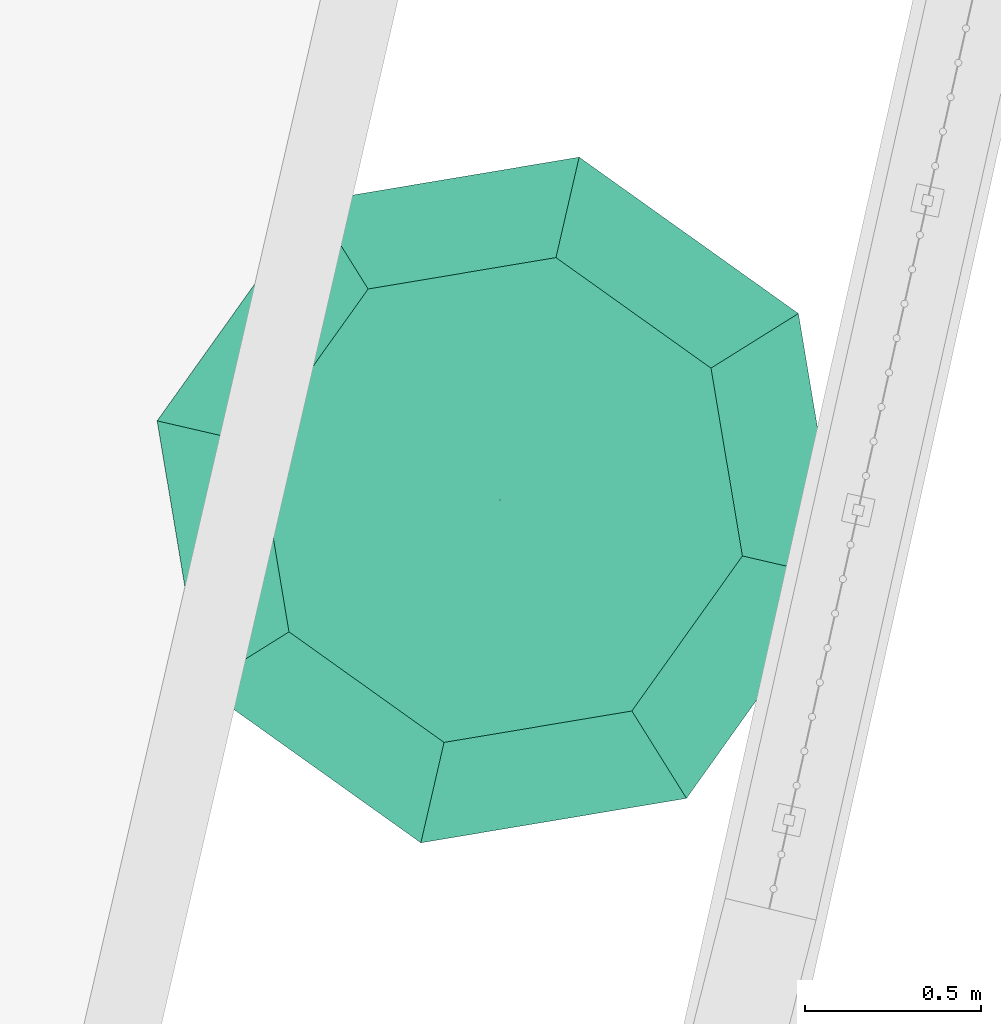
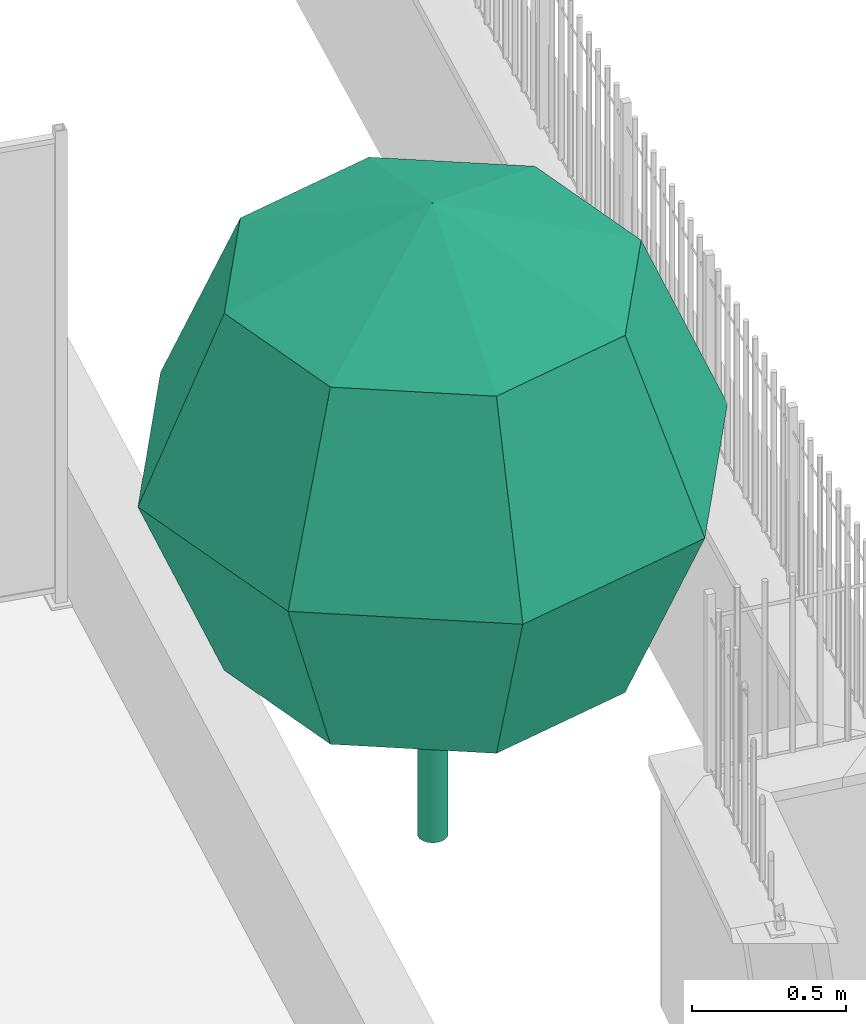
# One storey, part 103 of 119: 1 flow terminal.
"""IFC2X3 building model written with IfcOpenShell, lengths in metres."""

from ifc_helpers import new_model, entity, si_unit, converted_unit, derived_unit, money_unit, direction, frame, origin_with_axes, place, context, subcontext, project, spatial, faceted_brep, source, transform, mapped, type_object, element, save


model = new_model("IFC2X3")

# Units and contexts
model_context = context("Model", 3, precision=1e-05, world=origin_with_axes(), true_north=direction((0.0, 1.0)))
body_context = subcontext(model_context, "Body", "Model", "MODEL_VIEW")
ifc_project = project(units=[si_unit("LENGTHUNIT", "METRE"), si_unit("AREAUNIT", "SQUARE_METRE"), si_unit("VOLUMEUNIT", "CUBIC_METRE"), converted_unit("PLANEANGLEUNIT", "DEGREE", entity("IfcPlaneAngleMeasure", 0.0174532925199), si_unit("PLANEANGLEUNIT", "RADIAN"), dimensions=[0, 0, 0, 0, 0, 0, 0]), si_unit("SOLIDANGLEUNIT", "STERADIAN"), money_unit("EUR"), converted_unit("TIMEUNIT", "Year", entity("IfcTimeMeasure", 31556926.0), si_unit("TIMEUNIT", "SECOND"), dimensions=[0, 0, 1, 0, 0, 0, 0]), si_unit("MASSUNIT", "GRAM", prefix="KILO"), si_unit("THERMODYNAMICTEMPERATUREUNIT", "DEGREE_CELSIUS"), si_unit("LUMINOUSINTENSITYUNIT", "LUMEN"), si_unit("ENERGYUNIT", "JOULE", prefix="MEGA"), derived_unit("THERMALCONDUCTANCEUNIT", [(si_unit("POWERUNIT", "WATT"), 1), (si_unit("LENGTHUNIT", "METRE"), -1), (si_unit("THERMODYNAMICTEMPERATUREUNIT", "KELVIN"), -1)]), derived_unit("SPECIFICHEATCAPACITYUNIT", [(si_unit("ENERGYUNIT", "JOULE"), 1), (si_unit("MASSUNIT", "GRAM", prefix="KILO"), -1), (si_unit("THERMODYNAMICTEMPERATUREUNIT", "KELVIN"), -1)]), derived_unit("MASSDENSITYUNIT", [(si_unit("MASSUNIT", "GRAM", prefix="KILO"), 1), (si_unit("VOLUMEUNIT", "CUBIC_METRE"), -1)])], contexts=[model_context])

# Site, building, storey
site_placement = place(None, origin_with_axes())
site = spatial("IfcSite", under=ifc_project, at=site_placement, Name="Site", CompositionType="ELEMENT")
building_placement = place(site_placement, origin_with_axes())
building = spatial("IfcBuilding", under=site, at=building_placement, Name="Bâtiment", CompositionType="ELEMENT")
storey_placement = place(building_placement, origin_with_axes())
storey = spatial("IfcBuildingStorey", under=building, at=storey_placement, Name="Rez-de-chaussée", CompositionType="ELEMENT", Elevation=0.0)

# Flow terminal
air_terminal_type = type_object("IfcAirTerminalType", Name="Modèle arbre conceptuel 23", PredefinedType="NOTDEFINED")
shared_shape = source(origin_with_axes(), body_context, "Body", "Brep", [
    faceted_brep([(-0.0492403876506, -0.00868240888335, 0.0), (-0.05, 0.0, 0.0), (-0.0492403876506, 0.00868240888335, 0.0), (-0.0469846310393, 0.0171010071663, 0.0), (-0.0433012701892, 0.025, 0.0), (-0.0383022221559, 0.0321393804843, 0.0), (-0.0321393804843, 0.0383022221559, 0.0), (-0.025, 0.0433012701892, 0.0), (-0.0171010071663, 0.0469846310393, 0.0), (-0.00868240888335, 0.0492403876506, 0.0), (0.0, 0.05, 0.0), (0.00868240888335, 0.0492403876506, 0.0), (0.0171010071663, 0.0469846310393, 0.0), (0.025, 0.0433012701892, 0.0), (0.0321393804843, 0.0383022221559, 0.0), (0.0383022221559, 0.0321393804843, 0.0), (0.0433012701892, 0.025, 0.0), (0.0469846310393, 0.0171010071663, 0.0), (0.0492403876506, 0.00868240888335, 0.0), (0.05, 0.0, 0.0), (0.0492403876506, -0.00868240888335, 0.0), (0.0469846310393, -0.0171010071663, 0.0), (0.0433012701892, -0.025, 0.0), (0.0383022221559, -0.0321393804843, 0.0), (0.0321393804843, -0.0383022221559, 0.0), (0.025, -0.0433012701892, 0.0), (0.0171010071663, -0.0469846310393, 0.0), (0.00868240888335, -0.0492403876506, 0.0), (0.0, -0.05, 0.0), (-0.00868240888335, -0.0492403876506, 0.0), (-0.0171010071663, -0.0469846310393, 0.0), (-0.025, -0.0433012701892, 0.0), (-0.0321393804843, -0.0383022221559, 0.0), (-0.0383022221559, -0.0321393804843, 0.0), (-0.0433012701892, -0.025, 0.0), (-0.0469846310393, -0.0171010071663, 0.0), (-0.0492403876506, -0.00868240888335, 0.5), (-0.05, 0.0, 0.5), (-0.0492403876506, 0.00868240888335, 0.5), (-0.0469846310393, 0.0171010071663, 0.5), (-0.0433012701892, 0.025, 0.5), (-0.0383022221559, 0.0321393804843, 0.5), (-0.0321393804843, 0.0383022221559, 0.5), (-0.025, 0.0433012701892, 0.5), (-0.0171010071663, 0.0469846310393, 0.5), (-0.00868240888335, 0.0492403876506, 0.5), (0.0, 0.05, 0.5), (0.00868240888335, 0.0492403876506, 0.5), (0.0171010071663, 0.0469846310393, 0.5), (0.025, 0.0433012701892, 0.5), (0.0321393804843, 0.0383022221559, 0.5), (0.0383022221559, 0.0321393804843, 0.5), (0.0433012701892, 0.025, 0.5), (0.0469846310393, 0.0171010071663, 0.5), (0.0492403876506, 0.00868240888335, 0.5), (0.05, 0.0, 0.5), (0.0492403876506, -0.00868240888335, 0.5), (0.0469846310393, -0.0171010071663, 0.5), (0.0433012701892, -0.025, 0.5), (0.0383022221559, -0.0321393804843, 0.5), (0.0321393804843, -0.0383022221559, 0.5), (0.025, -0.0433012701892, 0.5), (0.0171010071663, -0.0469846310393, 0.5), (0.00868240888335, -0.0492403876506, 0.5), (0.0, -0.05, 0.5), (-0.00868240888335, -0.0492403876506, 0.5), (-0.0171010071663, -0.0469846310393, 0.5), (-0.025, -0.0433012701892, 0.5), (-0.0321393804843, -0.0383022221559, 0.5), (-0.0383022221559, -0.0321393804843, 0.5), (-0.0433012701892, -0.025, 0.5), (-0.0469846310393, -0.0171010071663, 0.5)], [[[0, 1, 2, 3, 4, 5, 6, 7, 8, 9, 10, 11, 12, 13, 14, 15, 16, 17, 18, 19, 20, 21, 22, 23, 24, 25, 26, 27, 28, 29, 30, 31, 32, 33, 34, 35]], [[0, 36, 37, 1]], [[1, 37, 38, 2]], [[2, 38, 39, 3]], [[3, 39, 40, 4]], [[4, 40, 41, 5]], [[5, 41, 42, 6]], [[6, 42, 43, 7]], [[7, 43, 44, 8]], [[8, 44, 45, 9]], [[9, 45, 46, 10]], [[10, 46, 47, 11]], [[11, 47, 48, 12]], [[12, 48, 49, 13]], [[13, 49, 50, 14]], [[14, 50, 51, 15]], [[15, 51, 52, 16]], [[16, 52, 53, 17]], [[17, 53, 54, 18]], [[18, 54, 55, 19]], [[19, 55, 56, 20]], [[20, 56, 57, 21]], [[21, 57, 58, 22]], [[22, 58, 59, 23]], [[23, 59, 60, 24]], [[24, 60, 61, 25]], [[25, 61, 62, 26]], [[26, 62, 63, 27]], [[27, 63, 64, 28]], [[28, 64, 65, 29]], [[29, 65, 66, 30]], [[30, 66, 67, 31]], [[31, 67, 68, 32]], [[32, 68, 69, 33]], [[33, 69, 70, 34]], [[34, 70, 71, 35]], [[35, 71, 36, 0]], [[36, 71, 70, 69, 68, 67, 66, 65, 64, 63, 62, 61, 60, 59, 58, 57, 56, 55, 54, 53, 52, 51, 50, 49, 48, 47, 46, 45, 44, 43, 42, 41, 40, 39, 38, 37]]]),
    faceted_brep([(-0.0492403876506, -0.00868240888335, 0.5), (-0.05, 0.0, 0.5), (-0.0492403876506, 0.00868240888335, 0.5), (-0.0469846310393, 0.0171010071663, 0.5), (-0.0433012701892, 0.025, 0.5), (-0.0383022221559, 0.0321393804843, 0.5), (-0.0321393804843, 0.0383022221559, 0.5), (-0.025, 0.0433012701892, 0.5), (-0.0171010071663, 0.0469846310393, 0.5), (-0.00868240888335, 0.0492403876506, 0.5), (0.0, 0.05, 0.5), (0.00868240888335, 0.0492403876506, 0.5), (0.0171010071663, 0.0469846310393, 0.5), (0.025, 0.0433012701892, 0.5), (0.0321393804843, 0.0383022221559, 0.5), (0.0383022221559, 0.0321393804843, 0.5), (0.0433012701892, 0.025, 0.5), (0.0469846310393, 0.0171010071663, 0.5), (0.0492403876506, 0.00868240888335, 0.5), (0.05, 0.0, 0.5), (0.0492403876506, -0.00868240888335, 0.5), (0.0469846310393, -0.0171010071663, 0.5), (0.0433012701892, -0.025, 0.5), (0.0383022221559, -0.0321393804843, 0.5), (0.0321393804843, -0.0383022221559, 0.5), (0.025, -0.0433012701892, 0.5), (0.0171010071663, -0.0469846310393, 0.5), (0.00868240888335, -0.0492403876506, 0.5), (0.0, -0.05, 0.5), (-0.00868240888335, -0.0492403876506, 0.5), (-0.0171010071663, -0.0469846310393, 0.5), (-0.025, -0.0433012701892, 0.5), (-0.0321393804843, -0.0383022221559, 0.5), (-0.0383022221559, -0.0321393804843, 0.5), (-0.0433012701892, -0.025, 0.5), (-0.0469846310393, -0.0171010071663, 0.5), (0.0, 0.0, 1.5)], [[[0, 1, 2, 3, 4, 5, 6, 7, 8, 9, 10, 11, 12, 13, 14, 15, 16, 17, 18, 19, 20, 21, 22, 23, 24, 25, 26, 27, 28, 29, 30, 31, 32, 33, 34, 35]], [[0, 36, 1]], [[1, 36, 2]], [[2, 36, 3]], [[3, 36, 4]], [[4, 36, 5]], [[5, 36, 6]], [[6, 36, 7]], [[7, 36, 8]], [[8, 36, 9]], [[9, 36, 10]], [[10, 36, 11]], [[11, 36, 12]], [[12, 36, 13]], [[13, 36, 14]], [[14, 36, 15]], [[15, 36, 16]], [[16, 36, 17]], [[17, 36, 18]], [[18, 36, 19]], [[19, 36, 20]], [[20, 36, 21]], [[21, 36, 22]], [[22, 36, 23]], [[23, 36, 24]], [[24, 36, 25]], [[25, 36, 26]], [[26, 36, 27]], [[27, 36, 28]], [[28, 36, 29]], [[29, 36, 30]], [[30, 36, 31]], [[31, 36, 32]], [[32, 36, 33]], [[33, 36, 34]], [[34, 36, 35]], [[35, 36, 0]]]),
    faceted_brep([(-0.707106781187, 0.0, 2.20710678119), (-0.5, -0.5, 2.20710678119), (0.0, 0.0, 2.5), (-1.0, 0.0, 1.5), (-0.707106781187, -0.707106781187, 1.5), (0.0, -0.707106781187, 2.20710678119), (-0.5, 0.5, 2.20710678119), (-0.707106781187, 0.0, 0.792893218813), (-0.5, -0.5, 0.792893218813), (0.0, -1.0, 1.5), (-0.707106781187, 0.707106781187, 1.5), (0.5, -0.5, 2.20710678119), (0.0, 0.707106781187, 2.20710678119), (0.0, 0.0, 0.5), (0.0, -0.707106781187, 0.792893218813), (-0.5, 0.5, 0.792893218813), (0.707106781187, -0.707106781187, 1.5), (0.0, 1.0, 1.5), (0.707106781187, 0.0, 2.20710678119), (0.5, 0.5, 2.20710678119), (0.5, -0.5, 0.792893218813), (0.0, 0.707106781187, 0.792893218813), (1.0, 0.0, 1.5), (0.707106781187, 0.707106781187, 1.5), (0.707106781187, 0.0, 0.792893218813), (0.5, 0.5, 0.792893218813)], [[[0, 1, 2]], [[3, 4, 1, 0]], [[1, 5, 2]], [[6, 0, 2]], [[7, 8, 4, 3]], [[4, 9, 5, 1]], [[10, 3, 0, 6]], [[5, 11, 2]], [[12, 6, 2]], [[13, 8, 7]], [[8, 14, 9, 4]], [[15, 7, 3, 10]], [[9, 16, 11, 5]], [[17, 10, 6, 12]], [[11, 18, 2]], [[19, 12, 2]], [[13, 14, 8]], [[13, 7, 15]], [[14, 20, 16, 9]], [[21, 15, 10, 17]], [[16, 22, 18, 11]], [[23, 17, 12, 19]], [[18, 19, 2]], [[13, 20, 14]], [[13, 15, 21]], [[20, 24, 22, 16]], [[25, 21, 17, 23]], [[22, 23, 19, 18]], [[13, 24, 20]], [[13, 21, 25]], [[24, 25, 23, 22]], [[13, 25, 24]]]),
])
flow_terminal_placement = place(storey_placement, frame((2.01792236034, 0.108377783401, 0.0), z_axis=(0.0, 0.0, 1.0), x_axis=(-0.224876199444, -0.974387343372, 0.0)))
element("IfcFlowTerminal", 1, at=flow_terminal_placement, inside=storey, type_object=air_terminal_type, ObjectType="AIR TERMINAL", context=body_context, shape_type="MappedRepresentation", body=[
    mapped(shared_shape, transform((0.0, 0.0, 0.0))),
])

save(model, "model.ifc")
